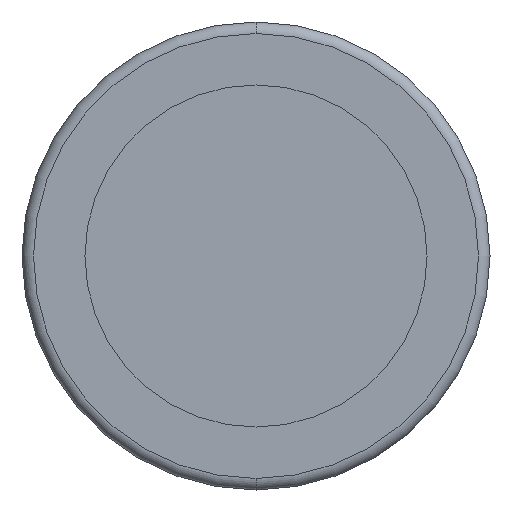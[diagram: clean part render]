
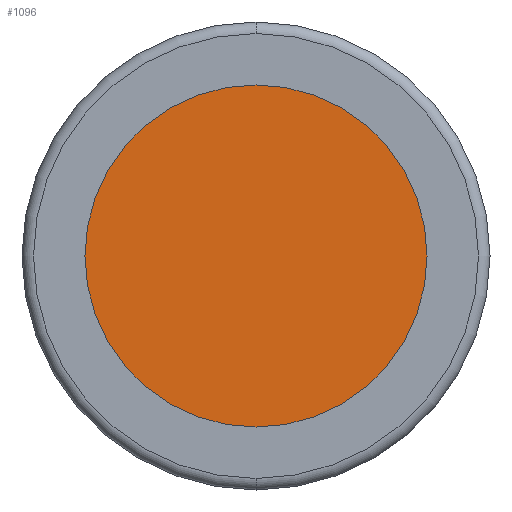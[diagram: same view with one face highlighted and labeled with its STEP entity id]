
A CAD part, front view. The second image highlights one B-rep face of the part: STEP entity #1096.
In plain terms, the highlighted planar face has unit normal (0, -1, 0).
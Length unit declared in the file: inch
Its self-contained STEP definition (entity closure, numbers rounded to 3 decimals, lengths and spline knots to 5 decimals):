
#27 = CARTESIAN_POINT ( 'NONE',  ( 0., -0.54, 0.297 ) ) ;
#72 = EDGE_CURVE ( 'NONE', #1093, #1197, #353, .T. ) ;
#127 = CIRCLE ( 'NONE', #930, 0.297 ) ;
#136 = DIRECTION ( 'NONE',  ( 0., 0., -1. ) ) ;
#138 = CARTESIAN_POINT ( 'NONE',  ( 0., -0.54, 0. ) ) ;
#221 = FACE_OUTER_BOUND ( 'NONE', #712, .T. ) ;
#251 = CARTESIAN_POINT ( 'NONE',  ( 0., -0.54, 0. ) ) ;
#321 = DIRECTION ( 'NONE',  ( 0., -1., 0. ) ) ;
#322 = EDGE_CURVE ( 'NONE', #1197, #1093, #127, .T. ) ;
#353 = CIRCLE ( 'NONE', #1107, 0.297 ) ;
#404 = PLANE ( 'NONE',  #600 ) ;
#421 = DIRECTION ( 'NONE',  ( 0., -1., 0. ) ) ;
#463 = ORIENTED_EDGE ( 'NONE', *, *, #72, .T. ) ;
#599 = CARTESIAN_POINT ( 'NONE',  ( 0., -0.54, 0. ) ) ;
#600 = AXIS2_PLACEMENT_3D ( 'NONE', #138, #321, #136 ) ;
#703 = DIRECTION ( 'NONE',  ( 0., 0., -1. ) ) ;
#712 = EDGE_LOOP ( 'NONE', ( #742, #463 ) ) ;
#742 = ORIENTED_EDGE ( 'NONE', *, *, #322, .T. ) ;
#870 = CARTESIAN_POINT ( 'NONE',  ( 0., -0.54, -0.297 ) ) ;
#930 = AXIS2_PLACEMENT_3D ( 'NONE', #251, #1007, #933 ) ;
#933 = DIRECTION ( 'NONE',  ( 0., 0., -1. ) ) ;
#1007 = DIRECTION ( 'NONE',  ( 0., -1., 0. ) ) ;
#1093 = VERTEX_POINT ( 'NONE', #870 ) ;
#1096 = ADVANCED_FACE ( 'NONE', ( #221 ), #404, .T. ) ;
#1107 = AXIS2_PLACEMENT_3D ( 'NONE', #599, #421, #703 ) ;
#1197 = VERTEX_POINT ( 'NONE', #27 ) ;
